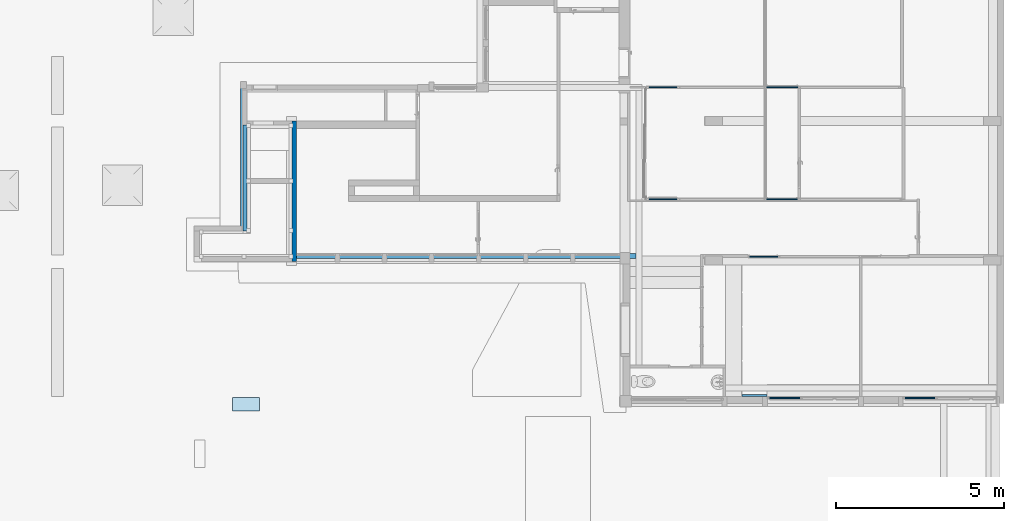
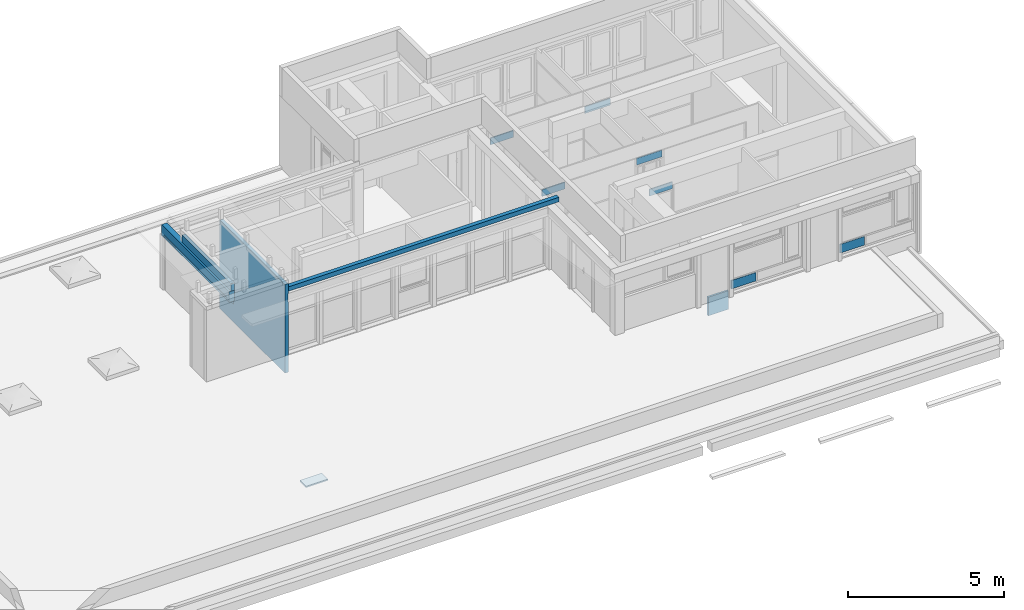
# One storey, part 21 of 49: 7 plates, 5 walls, 1 slab, 4 openings, 5 elements without a shape of their own.
"""IFC4 building model written with IfcOpenShell, lengths in metres."""

from ifc_helpers import new_model, entity, si_unit, converted_unit, derived_unit, direction, frame, origin, place, context, subcontext, project, spatial, indexed_curve, outline, extrude, shape, source, transform, mapped, material, layer, layer_set, type_object, type_shapes, element, aggregate, save


model = new_model("IFC4")

# Units and contexts
model_context = context("Model", 3, precision=1e-05, world=origin(), true_north=direction((6.12303176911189e-17, 1.0)))
body_context = subcontext(model_context, "Body", "Model", "MODEL_VIEW")
footprint_context = subcontext(model_context, "FootPrint", "Model", "MODEL_VIEW")
ifc_project = project(units=[si_unit("LENGTHUNIT", "METRE"), si_unit("AREAUNIT", "SQUARE_METRE"), si_unit("VOLUMEUNIT", "CUBIC_METRE"), converted_unit("PLANEANGLEUNIT", "DEGREE", entity("IfcRatioMeasure", 0.0174532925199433), si_unit("PLANEANGLEUNIT", "RADIAN"), dimensions=[0, 0, 0, 0, 0, 0, 0]), si_unit("MASSUNIT", "GRAM", prefix="KILO"), derived_unit("MASSDENSITYUNIT", [(si_unit("MASSUNIT", "GRAM", prefix="KILO"), 1), (si_unit("LENGTHUNIT", "METRE"), -3)]), derived_unit("MOMENTOFINERTIAUNIT", [(si_unit("LENGTHUNIT", "METRE"), 4)]), si_unit("TIMEUNIT", "SECOND"), si_unit("FREQUENCYUNIT", "HERTZ"), si_unit("THERMODYNAMICTEMPERATUREUNIT", "DEGREE_CELSIUS"), derived_unit("THERMALTRANSMITTANCEUNIT", [(si_unit("MASSUNIT", "GRAM", prefix="KILO"), 1), (si_unit("THERMODYNAMICTEMPERATUREUNIT", "KELVIN"), -1), (si_unit("TIMEUNIT", "SECOND"), -3)]), derived_unit("VOLUMETRICFLOWRATEUNIT", [(si_unit("LENGTHUNIT", "METRE"), 3), (si_unit("TIMEUNIT", "SECOND"), -1)]), si_unit("ELECTRICCURRENTUNIT", "AMPERE"), si_unit("ELECTRICVOLTAGEUNIT", "VOLT"), si_unit("POWERUNIT", "WATT"), si_unit("FORCEUNIT", "NEWTON", prefix="KILO"), si_unit("ILLUMINANCEUNIT", "LUX"), si_unit("LUMINOUSFLUXUNIT", "LUMEN"), si_unit("LUMINOUSINTENSITYUNIT", "CANDELA"), derived_unit("USERDEFINED", [(si_unit("MASSUNIT", "GRAM", prefix="KILO"), -1), (si_unit("LENGTHUNIT", "METRE"), -2), (si_unit("TIMEUNIT", "SECOND"), 3), (si_unit("LUMINOUSFLUXUNIT", "LUMEN"), 1)]), derived_unit("LINEARVELOCITYUNIT", [(si_unit("LENGTHUNIT", "METRE"), 1), (si_unit("TIMEUNIT", "SECOND"), -1)]), si_unit("PRESSUREUNIT", "PASCAL"), derived_unit("USERDEFINED", [(si_unit("LENGTHUNIT", "METRE"), -2), (si_unit("MASSUNIT", "GRAM", prefix="KILO"), 1), (si_unit("TIMEUNIT", "SECOND"), -2)]), derived_unit("LINEARFORCEUNIT", [(si_unit("MASSUNIT", "GRAM", prefix="KILO"), 1), (si_unit("LENGTHUNIT", "METRE"), 1), (si_unit("TIMEUNIT", "SECOND"), -2), (si_unit("LENGTHUNIT", "METRE"), -1)]), derived_unit("PLANARFORCEUNIT", [(si_unit("MASSUNIT", "GRAM", prefix="KILO"), 1), (si_unit("LENGTHUNIT", "METRE"), 1), (si_unit("TIMEUNIT", "SECOND"), -2), (si_unit("LENGTHUNIT", "METRE"), -2)])], contexts=[model_context])

# Site, building, storey
site_placement = place(None, origin())
site = spatial("IfcSite", under=ifc_project, at=site_placement, Name="Default", CompositionType="ELEMENT")
building_placement = place(site_placement, origin())
building = spatial("IfcBuilding", under=site, at=building_placement, Name="HOTEL CONSULAIRE BOULOGNE SUR MER", CompositionType="ELEMENT")
storey_placement = place(building_placement, frame((0.0, 0.0, 6.81974152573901)))
storey = spatial("IfcBuildingStorey", under=building, at=storey_placement, Name="Niveau 2", CompositionType="ELEMENT", Elevation=6.81974152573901)

# Slab
ifc_material_1 = material(Name="Plâtre", Category="Plâtre")
ifc_layer_1 = layer(ifc_material_1, 0.05, Name="Plâtre", Category="Plâtre")
ifc_layer_set_1 = layer_set([ifc_layer_1], Name="Sol:plâtre 50")
slab_type = type_object("IfcSlabType", Name="Sol:plâtre 50", PredefinedType="FLOOR", material=ifc_layer_set_1)
slab_placement = place(storey_placement, origin())
element("IfcSlab", 1, at=slab_placement, inside=storey, type_object=slab_type, material=ifc_layer_set_1, Name="Sol:plâtre 50", ObjectType="Sol:plâtre 50", PredefinedType="FLOOR", context=body_context, shape_type="SweptSolid", body=[
    extrude(outline(indexed_curve([(-0.197999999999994, -0.402006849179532), (0.198000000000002, -0.402006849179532), (0.197999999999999, 0.402006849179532), (-0.197999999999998, 0.402006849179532), (-0.197999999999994, -0.402006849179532)], self_intersect=False)), frame((0.256573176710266, -24.052691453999, -1.15221454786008), z_axis=(0.0, 0.0, -1.0), x_axis=(0.0, 1.0, 0.0)), (0.0, 0.0, 1.0), 0.0499999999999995),
])

# Curtain wall, plate
curtain_wall_type = type_object("IfcCurtainWallType", Name="Mur-rideau:Simple panneau", PredefinedType="NOTDEFINED")
curtain_wall_1_placement = place(storey_placement, frame((0.0, 0.0, -6.81974152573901)))
curtain_wall_1 = element("IfcCurtainWall", 2, at=curtain_wall_1_placement, inside=storey, type_object=curtain_wall_type, Name="Mur-rideau:Simple panneau", ObjectType="Mur-rideau:Simple panneau", PredefinedType="NOTDEFINED")
ifc_material_2 = material(Name="Verre", Category="Verre")
ifc_layer_2 = layer(ifc_material_2, 0.04, Name="Verre", Category="Verre")
ifc_layer_set_2 = layer_set([ifc_layer_2], Name="Mur-rideau:Simple panneau")
plate_type_1 = type_object("IfcPlateType", Name="Panneau système:Vitré", PredefinedType="CURTAIN_PANEL", material=ifc_layer_set_2)
shared_shape_1 = source(origin(), body_context, "Body", "SweptSolid", [
    extrude(outline(indexed_curve([(-0.02, -0.431274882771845), (0.02, -0.431274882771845), (0.02, 0.431274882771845), (-0.02, 0.431274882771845), (-0.02, -0.431274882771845)], self_intersect=False)), frame((0.431274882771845, 0.02, 0.0), z_axis=(0.0, 0.0, 1.0), x_axis=(0.0, 1.0, 0.0)), (0.0, 0.0, 1.0), 0.261),
])
shared_shape_2 = source(frame((-0.431274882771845, 0.00500000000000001, 0.0)), footprint_context, "FootPrint", "Curve2D", [
    entity("IfcIndexedPolyCurve", entity("IfcCartesianPointList2D", [[0.562727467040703, 0.003476], [0.562727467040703, 0.043476], [-0.299822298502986, 0.043476], [-0.299822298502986, 0.003476], [0.562727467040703, 0.003476]]), None, False),
])
type_shapes(plate_type_1, [shared_shape_1, shared_shape_2])
plate_1_placement = place(curtain_wall_1_placement, frame((16.0773568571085, -19.648155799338, 8.89074152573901), z_axis=(0.0, 0.0, 1.0), x_axis=(-1.0, 0.0, 0.0)))
plate_1 = element("IfcPlate", 3, at=plate_1_placement, type_object=plate_type_1, material=ifc_layer_set_2, Name="Panneau système:Vitré", ObjectType="Panneau système:Vitré", PredefinedType="CURTAIN_PANEL", shapes=[
    shape(body_context, "Body", "MappedRepresentation", [mapped(shared_shape_1, transform((0.0, 0.0, 0.0), scale=1.0))]),
    shape(body_context, "Body", "MappedRepresentation", [mapped(shared_shape_2, transform((0.0, 0.0, 0.0), scale=1.0))]),
])
aggregate(curtain_wall_1, [plate_1])

# Curtain wall, plates
curtain_wall_2_placement = place(storey_placement, frame((0.0, 0.0, -6.81974152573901)))
curtain_wall_2 = element("IfcCurtainWall", 4, at=curtain_wall_2_placement, inside=storey, type_object=curtain_wall_type, Name="Mur-rideau:Simple panneau", ObjectType="Mur-rideau:Simple panneau", PredefinedType="NOTDEFINED")
plate_type_2 = type_object("IfcPlateType", Name="Panneau système:Vitré", PredefinedType="CURTAIN_PANEL", material=ifc_layer_set_2)
shared_shape_3 = source(origin(), body_context, "Body", "SweptSolid", [
    extrude(outline(indexed_curve([(-0.02, -0.470999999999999), (0.02, -0.470999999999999), (0.02, 0.470999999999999), (-0.02, 0.470999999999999), (-0.02, -0.470999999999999)], self_intersect=False)), frame((0.470999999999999, 0.02, 0.0), z_axis=(0.0, 0.0, 1.0), x_axis=(0.0, 1.0, 0.0)), (0.0, 0.0, 1.0), 0.261),
])
shared_shape_4 = source(frame((-0.470999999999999, 0.00500000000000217, 0.0)), footprint_context, "FootPrint", "Curve2D", [
    entity("IfcIndexedPolyCurve", entity("IfcCartesianPointList2D", [[0.614560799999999, 0.00347600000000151], [0.614560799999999, 0.0434760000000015], [-0.3274392, 0.0434760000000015], [-0.3274392, 0.00347600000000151], [0.614560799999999, 0.00347600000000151]]), None, False),
])
type_shapes(plate_type_2, [shared_shape_3, shared_shape_4])
plate_2_placement = place(curtain_wall_2_placement, frame((16.673075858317, -14.6074237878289, 8.89074152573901), z_axis=(0.0, 0.0, 1.0), x_axis=(-1.0, 0.0, 0.0)))
plate_2 = element("IfcPlate", 5, at=plate_2_placement, type_object=plate_type_2, material=ifc_layer_set_2, Name="Panneau système:Vitré", ObjectType="Panneau système:Vitré", PredefinedType="CURTAIN_PANEL", shapes=[
    shape(body_context, "Body", "MappedRepresentation", [mapped(shared_shape_3, transform((0.0, 0.0, 0.0), scale=1.0))]),
    shape(body_context, "Body", "MappedRepresentation", [mapped(shared_shape_4, transform((0.0, 0.0, 0.0), scale=1.0))]),
])
plate_type_3 = type_object("IfcPlateType", Name="Panneau système:Vitré", PredefinedType="CURTAIN_PANEL", material=ifc_layer_set_2)
shared_shape_5 = source(origin(), body_context, "Body", "SweptSolid", [
    extrude(outline(indexed_curve([(-0.02, -0.421500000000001), (0.02, -0.421500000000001), (0.02, 0.421500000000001), (-0.02, 0.421500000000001), (-0.02, -0.421500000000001)], self_intersect=False)), frame((0.421500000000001, 0.02, 0.0), z_axis=(0.0, 0.0, 1.0), x_axis=(0.0, 1.0, 0.0)), (0.0, 0.0, 1.0), 0.261),
])
shared_shape_6 = source(frame((-0.4215, 0.00500000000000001, 0.0)), footprint_context, "FootPrint", "Curve2D", [
    entity("IfcIndexedPolyCurve", entity("IfcCartesianPointList2D", [[0.549973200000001, 0.003476], [0.549973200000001, 0.043476], [-0.2930268, 0.043476], [-0.2930268, 0.003476], [0.549973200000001, 0.003476]]), None, False),
])
type_shapes(plate_type_3, [shared_shape_5, shared_shape_6])
plate_3_placement = place(curtain_wall_2_placement, frame((13.078075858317, -14.6074237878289, 8.89074152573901), z_axis=(0.0, 0.0, 1.0), x_axis=(-1.0, 0.0, 0.0)))
plate_3 = element("IfcPlate", 6, at=plate_3_placement, type_object=plate_type_3, material=ifc_layer_set_2, Name="Panneau système:Vitré", ObjectType="Panneau système:Vitré", PredefinedType="CURTAIN_PANEL", shapes=[
    shape(body_context, "Body", "MappedRepresentation", [mapped(shared_shape_5, transform((0.0, 0.0, 0.0), scale=1.0))]),
    shape(body_context, "Body", "MappedRepresentation", [mapped(shared_shape_6, transform((0.0, 0.0, 0.0), scale=1.0))]),
])
aggregate(curtain_wall_2, [plate_2, plate_3])

curtain_wall_3_placement = place(storey_placement, frame((0.0, 0.0, -6.81974152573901)))
curtain_wall_3 = element("IfcCurtainWall", 7, at=curtain_wall_3_placement, inside=storey, type_object=curtain_wall_type, Name="Mur-rideau:Simple panneau", ObjectType="Mur-rideau:Simple panneau", PredefinedType="NOTDEFINED")
plate_type_4 = type_object("IfcPlateType", Name="Panneau système:Vitré", PredefinedType="CURTAIN_PANEL", material=ifc_layer_set_2)
shared_shape_7 = source(origin(), body_context, "Body", "SweptSolid", [
    extrude(outline(indexed_curve([(-0.02, -0.465), (0.02, -0.465), (0.02, 0.465), (-0.02, 0.465), (-0.02, -0.465)], self_intersect=False)), frame((0.465, 0.02, 0.0), z_axis=(0.0, 0.0, 1.0), x_axis=(0.0, 1.0, 0.0)), (0.0, 0.0, 1.0), 0.261),
])
shared_shape_8 = source(frame((-0.465000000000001, 0.00500000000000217, 0.0)), footprint_context, "FootPrint", "Curve2D", [
    entity("IfcIndexedPolyCurve", entity("IfcCartesianPointList2D", [[0.606732, 0.00347600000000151], [0.606732, 0.0434760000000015], [-0.323268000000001, 0.0434760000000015], [-0.323268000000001, 0.00347600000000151], [0.606732, 0.00347600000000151]]), None, False),
])
type_shapes(plate_type_4, [shared_shape_7, shared_shape_8])
plate_4_placement = place(curtain_wall_3_placement, frame((16.661075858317, -17.9363078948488, 8.89074152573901), z_axis=(0.0, 0.0, 1.0), x_axis=(-1.0, 0.0, 0.0)))
plate_4 = element("IfcPlate", 8, at=plate_4_placement, type_object=plate_type_4, material=ifc_layer_set_2, Name="Panneau système:Vitré", ObjectType="Panneau système:Vitré", PredefinedType="CURTAIN_PANEL", shapes=[
    shape(body_context, "Body", "MappedRepresentation", [mapped(shared_shape_7, transform((0.0, 0.0, 0.0), scale=1.0))]),
    shape(body_context, "Body", "MappedRepresentation", [mapped(shared_shape_8, transform((0.0, 0.0, 0.0), scale=1.0))]),
])
plate_type_5 = type_object("IfcPlateType", Name="Panneau système:Vitré", PredefinedType="CURTAIN_PANEL", material=ifc_layer_set_2)
shared_shape_9 = source(origin(), body_context, "Body", "SweptSolid", [
    extrude(outline(indexed_curve([(-0.02, -0.426304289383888), (0.02, -0.426304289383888), (0.02, 0.426304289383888), (-0.02, 0.426304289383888), (-0.02, -0.426304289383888)], self_intersect=False)), frame((0.426304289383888, 0.02, 0.0), z_axis=(0.0, 0.0, 1.0), x_axis=(0.0, 1.0, 0.0)), (0.0, 0.0, 1.0), 0.261),
])
shared_shape_10 = source(frame((-0.42630428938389, 0.00500000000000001, 0.0)), footprint_context, "FootPrint", "Curve2D", [
    entity("IfcIndexedPolyCurve", entity("IfcCartesianPointList2D", [[0.556241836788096, 0.003476], [0.556241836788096, 0.043476], [-0.29636674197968, 0.043476], [-0.29636674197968, 0.003476], [0.556241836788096, 0.003476]]), None, False),
])
type_shapes(plate_type_5, [shared_shape_9, shared_shape_10])
plate_5_placement = place(curtain_wall_3_placement, frame((13.078075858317, -17.9363078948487, 8.89074152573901), z_axis=(0.0, 0.0, 1.0), x_axis=(-1.0, 0.0, 0.0)))
plate_5 = element("IfcPlate", 9, at=plate_5_placement, type_object=plate_type_5, material=ifc_layer_set_2, Name="Panneau système:Vitré", ObjectType="Panneau système:Vitré", PredefinedType="CURTAIN_PANEL", shapes=[
    shape(body_context, "Body", "MappedRepresentation", [mapped(shared_shape_9, transform((0.0, 0.0, 0.0), scale=1.0))]),
    shape(body_context, "Body", "MappedRepresentation", [mapped(shared_shape_10, transform((0.0, 0.0, 0.0), scale=1.0))]),
])
aggregate(curtain_wall_3, [plate_4, plate_5])

# Curtain wall, plate
curtain_wall_4_placement = place(storey_placement, frame((0.0, 0.0, -6.81974152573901)))
curtain_wall_4 = element("IfcCurtainWall", 10, at=curtain_wall_4_placement, inside=storey, type_object=curtain_wall_type, Name="Mur-rideau:Simple panneau", ObjectType="Mur-rideau:Simple panneau", PredefinedType="NOTDEFINED")
plate_type_6 = type_object("IfcPlateType", Name="Panneau système:Vitré", PredefinedType="CURTAIN_PANEL", material=ifc_layer_set_2)
shared_shape_11 = source(origin(), body_context, "Body", "SweptSolid", [
    extrude(outline(indexed_curve([(-0.02, -0.454999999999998), (0.02, -0.454999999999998), (0.02, 0.454999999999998), (-0.02, 0.454999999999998), (-0.02, -0.454999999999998)], self_intersect=False)), frame((0.454999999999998, 0.02, 0.0), z_axis=(0.0, 0.0, 1.0), x_axis=(0.0, 1.0, 0.0)), (0.0, 0.0, 1.0), 0.336000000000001),
])
shared_shape_12 = source(frame((-0.454999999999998, 0.00499999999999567, 0.0)), footprint_context, "FootPrint", "Curve2D", [
    entity("IfcIndexedPolyCurve", entity("IfcCartesianPointList2D", [[0.593683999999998, 0.00347599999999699], [0.593683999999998, 0.043475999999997], [-0.316315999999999, 0.043475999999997], [-0.316315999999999, 0.00347599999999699], [0.593683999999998, 0.00347599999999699]]), None, False),
])
type_shapes(plate_type_6, [shared_shape_11, shared_shape_12])
plate_6_placement = place(curtain_wall_4_placement, frame((19.8480413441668, -23.8883633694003, 7.58374152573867)))
plate_6 = element("IfcPlate", 11, at=plate_6_placement, type_object=plate_type_6, material=ifc_layer_set_2, Name="Panneau système:Vitré", ObjectType="Panneau système:Vitré", PredefinedType="CURTAIN_PANEL", shapes=[
    shape(body_context, "Body", "MappedRepresentation", [mapped(shared_shape_11, transform((0.0, 0.0, 0.0), scale=1.0))]),
    shape(body_context, "Body", "MappedRepresentation", [mapped(shared_shape_12, transform((0.0, 0.0, 0.0), scale=1.0))]),
])
aggregate(curtain_wall_4, [plate_6])

curtain_wall_5_placement = place(storey_placement, frame((0.0, 0.0, -6.81974152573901)))
curtain_wall_5 = element("IfcCurtainWall", 12, at=curtain_wall_5_placement, inside=storey, type_object=curtain_wall_type, Name="Mur-rideau:Simple panneau", ObjectType="Mur-rideau:Simple panneau", PredefinedType="NOTDEFINED")
plate_7_placement = place(curtain_wall_5_placement, frame((15.8220413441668, -23.8883633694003, 7.58374152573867)))
plate_7 = element("IfcPlate", 13, at=plate_7_placement, type_object=plate_type_6, material=ifc_layer_set_2, Name="Panneau système:Vitré", ObjectType="Panneau système:Vitré", PredefinedType="CURTAIN_PANEL", shapes=[
    shape(body_context, "Body", "MappedRepresentation", [mapped(shared_shape_11, transform((0.0, 0.0, 0.0), scale=1.0))]),
    shape(body_context, "Body", "MappedRepresentation", [mapped(shared_shape_12, transform((0.0, 0.0, 0.0), scale=1.0))]),
])
aggregate(curtain_wall_5, [plate_7])

# Wall
ifc_material_3 = material(Name="Mur par défaut", Category="Divers")
ifc_layer_3 = layer(ifc_material_3, 0.07, Name="Mur par défaut", Category="Divers")
ifc_layer_set_3 = layer_set([ifc_layer_3], Name="Mur de base:Générique - Int. 70 mm")
wall_type_1 = type_object("IfcWallType", Name="Mur de base:Générique - Int. 70 mm", PredefinedType="NOTDEFINED", material=ifc_layer_set_3)
wall_1_placement = place(storey_placement, frame((15.7476869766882, -23.7921007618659, -0.0349999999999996), z_axis=(0.0, 0.0, 1.0), x_axis=(-1.0, 0.0, 0.0)))
element("IfcWall", 14, at=wall_1_placement, inside=storey, type_object=wall_type_1, material=ifc_layer_set_3, Name="Mur de base:Générique - Int. 70 mm", ObjectType="Mur de base:Générique - Int. 70 mm", PredefinedType="NOTDEFINED", context=body_context, shape_type="SweptSolid", body=[
    extrude(outline(indexed_curve([(0.743868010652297, 0.0349999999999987), (-1.11613876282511e-16, 0.0350000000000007), (1.11613876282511e-16, -0.0350000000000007), (0.743868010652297, -0.0350000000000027), (0.743868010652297, 0.0349999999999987)], self_intersect=False)), origin(), (0.0, 0.0, 1.0), 0.728999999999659),
])

# Wall, openings
ifc_layer_4 = layer(ifc_material_3, 0.13, Name="Mur par défaut", Category="Divers")
ifc_layer_set_4 = layer_set([ifc_layer_4], Name="Mur de base:Générique - Int. 130 mm")
wall_type_2 = type_object("IfcWallType", Name="Mur de base:Générique - Int. 130 mm", PredefinedType="NOTDEFINED", material=ifc_layer_set_4)
wall_2_placement = place(storey_placement, frame((1.69247131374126, -19.8149143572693, -0.0299999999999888), z_axis=(0.0, 0.0, 1.0), x_axis=(0.0, 1.0, 0.0)))
wall_2 = element("IfcWall", 15, at=wall_2_placement, inside=storey, type_object=wall_type_2, material=ifc_layer_set_4, Name="Mur de base:Générique - Int. 130 mm", ObjectType="Mur de base:Générique - Int. 130 mm", PredefinedType="NOTDEFINED", context=body_context, shape_type="SweptSolid", body=[
    extrude(outline(indexed_curve([(4.17967231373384, 0.0650000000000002), (-1.01762265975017e-16, 0.0650000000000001), (1.01762265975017e-16, -0.0650000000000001), (4.17967231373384, -0.0650000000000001), (4.17967231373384, 0.0650000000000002)], self_intersect=False)), origin(), (0.0, 0.0, 1.0), 3.47189999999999),
])
opening_1_placement = place(storey_placement, frame((1.69247131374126, -19.8149143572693, -0.0299999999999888), z_axis=(0.0, 0.0, 1.0), x_axis=(0.0, 1.0, 0.0)))
element("IfcOpeningElement", 16, at=opening_1_placement, cuts=wall_2, Name="Mur de base:Générique - Int. 130 mm:1", ObjectType="Opening", PredefinedType="OPENING", context=body_context, shape_type="SweptSolid", body=[
    extrude(outline(indexed_curve([(-0.124999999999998, -0.00624065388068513), (0.125000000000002, -0.00624065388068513), (0.125000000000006, 0.00624065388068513), (-0.124999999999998, 0.00624065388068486), (-0.124999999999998, -0.00624065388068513)], self_intersect=False)), frame((0.125000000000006, -0.058759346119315, 2.74199999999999), z_axis=(0.0, 0.0, 1.0), x_axis=(-1.0, 0.0, 0.0)), (0.0, 0.0, 1.0), 0.34),
])
opening_2_placement = place(storey_placement, frame((1.69247131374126, -19.8149143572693, -0.0299999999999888), z_axis=(0.0, 0.0, 1.0), x_axis=(0.0, 1.0, 0.0)))
element("IfcOpeningElement", 17, at=opening_2_placement, cuts=wall_2, Name="Mur de base:Générique - Int. 130 mm:2", ObjectType="Opening", PredefinedType="OPENING", context=body_context, shape_type="SweptSolid", body=[
    extrude(outline(indexed_curve([(-0.378500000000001, -0.0325000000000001), (0.378499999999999, -0.0325000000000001), (0.378499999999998, 0.0325000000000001), (-0.378500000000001, 0.0325000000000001), (-0.378500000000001, -0.0325000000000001)], self_intersect=False)), frame((3.68117231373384, 0.0325000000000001, 0.711111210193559)), (0.0, 0.0, 1.0), 0.1),
])

ifc_layer_5 = layer(ifc_material_3, 0.2, Name="Mur par défaut", Category="Divers")
ifc_layer_set_5 = layer_set([ifc_layer_5], Name="Mur de base:Générique - Ext. 200 mm")
wall_type_3 = type_object("IfcWallType", Name="Mur de base:Générique - Ext. 200 mm", PredefinedType="NOTDEFINED", material=ifc_layer_set_5)
wall_3_placement = place(storey_placement, frame((0.191635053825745, -18.9046212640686, 2.73000000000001), z_axis=(0.0, 0.0, 1.0), x_axis=(0.0, 1.0, 0.0)))
wall_3 = element("IfcWall", 18, at=wall_3_placement, inside=storey, type_object=wall_type_3, material=ifc_layer_set_5, Name="Mur de base:Générique - Ext. 200 mm", ObjectType="Mur de base:Générique - Ext. 200 mm", PredefinedType="NOTDEFINED", context=body_context, shape_type="SweptSolid", body=[
    extrude(outline(indexed_curve([(4.34171034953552, 0.1), (-1.61985403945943e-16, 0.1), (1.61985403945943e-16, -0.1), (4.34171034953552, -0.1), (4.34171034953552, 0.1)], self_intersect=False)), origin(), (0.0, 0.0, 1.0), 0.418),
])
opening_3_placement = place(storey_placement, frame((0.191635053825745, -18.9046212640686, 2.73000000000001), z_axis=(0.0, 0.0, 1.0), x_axis=(0.0, 1.0, 0.0)))
element("IfcOpeningElement", 19, at=opening_3_placement, cuts=wall_3, Name="Mur de base:Générique - Ext. 200 mm:1", ObjectType="Opening", PredefinedType="OPENING", context=body_context, shape_type="SweptSolid", body=[
    extrude(outline(indexed_curve([(-2.02085517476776, -0.0249999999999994), (2.02085517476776, -0.0249999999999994), (2.02085517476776, 0.0249999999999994), (-2.02085517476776, 0.0249999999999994), (-2.02085517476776, -0.0249999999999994)], self_intersect=False)), frame((2.17085517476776, 0.0750000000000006, 0.00999999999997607)), (0.0, 0.0, 1.0), 0.1),
])
opening_4_placement = place(storey_placement, frame((0.191635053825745, -18.9046212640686, 2.73000000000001), z_axis=(0.0, 0.0, 1.0), x_axis=(0.0, 1.0, 0.0)))
element("IfcOpeningElement", 20, at=opening_4_placement, cuts=wall_3, Name="Mur de base:Générique - Ext. 200 mm:2", ObjectType="Opening", PredefinedType="OPENING", context=body_context, shape_type="SweptSolid", body=[
    extrude(outline(indexed_curve([(-0.42393245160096, -0.0600000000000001), (0.573398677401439, -0.0600000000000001), (0.573398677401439, 0.0400000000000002), (-0.298932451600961, 0.04), (-0.42393245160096, 0.04), (-0.42393245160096, -0.0600000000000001)], self_intersect=False)), frame((3.84277789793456, -0.06, 0.0919999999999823), z_axis=(0.0, 0.0, 1.0), x_axis=(-1.0, 0.0, 0.0)), (0.0, 0.0, 1.0), 0.229999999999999),
])

# Walls
ifc_layer_6 = layer(ifc_material_3, 0.15, Name="Mur par défaut", Category="Divers")
ifc_layer_set_6 = layer_set([ifc_layer_6], Name="Mur de base:Générique - Ext. 150 mm")
wall_type_4 = type_object("IfcWallType", Name="Mur de base:Générique - Ext. 150 mm", PredefinedType="NOTDEFINED", material=ifc_layer_set_6)
wall_4_placement = place(storey_placement, frame((1.75747131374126, -19.6399143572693, 3.052)))
element("IfcWall", 21, at=wall_4_placement, inside=storey, type_object=wall_type_4, material=ifc_layer_set_6, Name="Mur de base:Générique - Ext. 150 mm", ObjectType="Mur de base:Générique - Ext. 150 mm", PredefinedType="NOTDEFINED", context=body_context, shape_type="SweptSolid", body=[
    extrude(outline(indexed_curve([(10.0894722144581, 0.0750000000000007), (7.43657447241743e-17, 0.0750000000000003), (-7.43657447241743e-17, -0.0750000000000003), (10.0894722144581, -0.0749999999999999), (10.0894722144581, 0.0750000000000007)], self_intersect=False)), origin(), (0.0, 0.0, 1.0), 0.174999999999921),
])
ifc_layer_7 = layer(ifc_material_3, 0.13, Name="Mur par défaut", Category="Divers")
ifc_layer_set_7 = layer_set([ifc_layer_7], Name="Mur de base:Générique - Ext. 130 mm")
wall_type_5 = type_object("IfcWallType", Name="Mur de base:Générique - Ext. 130 mm", PredefinedType="NOTDEFINED", material=ifc_layer_set_7)
wall_5_placement = place(storey_placement, frame((0.226635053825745, -18.9046212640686, 3.14800000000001), z_axis=(0.0, 0.0, 1.0), x_axis=(0.0, 1.0, 0.0)))
element("IfcWall", 22, at=wall_5_placement, inside=storey, type_object=wall_type_5, material=ifc_layer_set_7, Name="Mur de base:Générique - Ext. 130 mm", ObjectType="Mur de base:Générique - Ext. 130 mm", PredefinedType="NOTDEFINED", context=body_context, shape_type="SweptSolid", body=[
    extrude(outline(indexed_curve([(3.14937922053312, 0.065), (-1.05290512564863e-16, 0.065), (1.05290512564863e-16, -0.065), (3.14937922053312, -0.0649999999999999), (3.14937922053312, 0.065)], self_intersect=False)), origin(), (0.0, 0.0, 1.0), 0.293899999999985),
])

save(model, "model.ifc")
